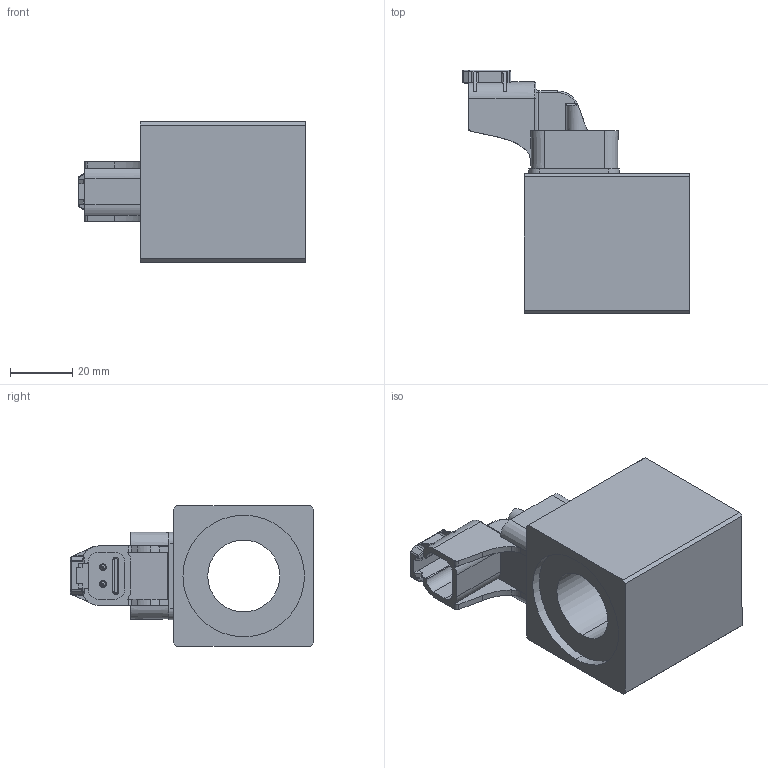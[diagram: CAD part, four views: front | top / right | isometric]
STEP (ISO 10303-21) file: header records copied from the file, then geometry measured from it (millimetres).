
FILE_DESCRIPTION (( 'STEP AP214' ), '1' );
FILE_NAME ('MGS45_23x50.STEP', '2015-07-16T13:04:23', ( '' ), ( '' ), 'SwSTEP 2.0', 'SolidWorks 2014', '' );
FILE_SCHEMA (( 'AUTOMOTIVE_DESIGN' ));
Length unit declared in the file: millimetre
Products named in the file (2): MGS45_23x50
Bounding box: 72.8 x 78.2 x 45 mm (x, y, z)
Volume: 96330.6 mm3; surface area: 25879.8 mm2
Topology: 3 solids, 8 shells, 449 faces, 1159 edges, 737 vertices
Faces by surface type: plane 223, cylinder 157, cone 28, torus 22, bspline 11, sphere 8
Entity records: 18867 total; most frequent: CARTESIAN_POINT 2934, DIRECTION 2342, ORIENTED_EDGE 2310, EDGE_CURVE 1155, AXIS2_PLACEMENT_3D 835, VERTEX_POINT 737, VECTOR 672, LINE 672
